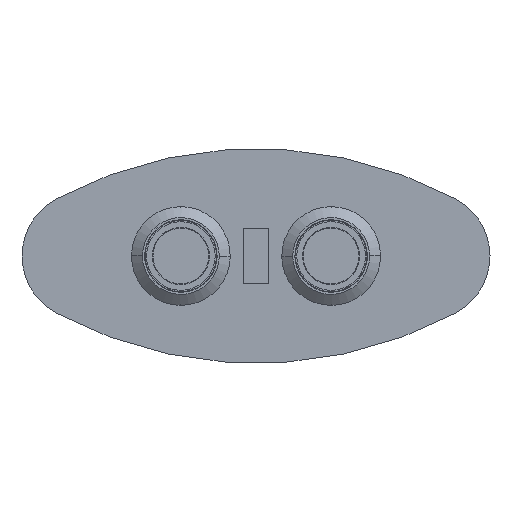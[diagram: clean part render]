
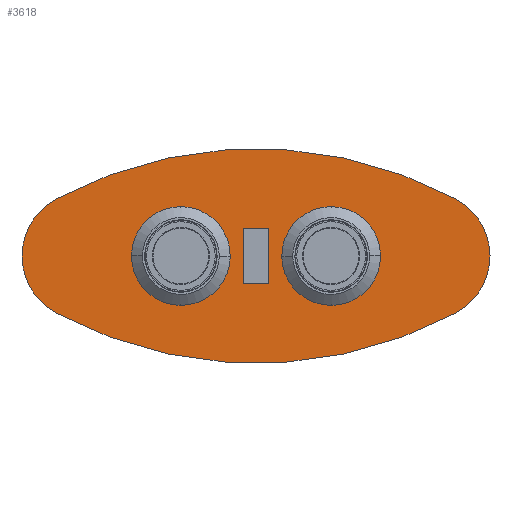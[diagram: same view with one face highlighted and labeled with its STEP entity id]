
A CAD part, front view. The second image highlights one B-rep face of the part: STEP entity #3618.
In plain terms, the highlighted planar face has unit normal (0, -1, 0).
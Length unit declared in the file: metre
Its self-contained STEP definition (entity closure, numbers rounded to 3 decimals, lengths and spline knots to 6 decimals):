
#433=DIRECTION('',(0.,0.,-1.));
#434=VECTOR('',#433,0.013);
#435=CARTESIAN_POINT('',(0.003,0.,0.0065));
#436=LINE('',#435,#434);
#437=DIRECTION('',(1.,0.,0.));
#438=VECTOR('',#437,0.006);
#439=CARTESIAN_POINT('',(-0.003,0.,0.0065));
#440=LINE('',#439,#438);
#445=DIRECTION('',(0.,0.,1.));
#446=VECTOR('',#445,0.013);
#447=CARTESIAN_POINT('',(-0.003,0.,-0.0065));
#448=LINE('',#447,#446);
#457=DIRECTION('',(-1.,0.,0.));
#458=VECTOR('',#457,0.006);
#459=CARTESIAN_POINT('',(0.003,0.,-0.0065));
#460=LINE('',#459,#458);
#465=CARTESIAN_POINT('',(0.,0.,-0.073013));
#466=DIRECTION('',(0.,1.,0.));
#467=DIRECTION('',(-0.476,0.,0.88));
#468=AXIS2_PLACEMENT_3D('',#465,#466,#467);
#470=CARTESIAN_POINT('',(0.0395,0.,0.));
#471=DIRECTION('',(0.,1.,0.));
#472=DIRECTION('',(0.476,0.,0.88));
#473=AXIS2_PLACEMENT_3D('',#470,#471,#472);
#475=CARTESIAN_POINT('',(0.0395,0.,0.));
#476=DIRECTION('',(0.,1.,0.));
#477=DIRECTION('',(1.,0.,0.));
#478=AXIS2_PLACEMENT_3D('',#475,#476,#477);
#480=CARTESIAN_POINT('',(0.,0.,0.073013));
#481=DIRECTION('',(0.,1.,0.));
#482=DIRECTION('',(0.476,0.,-0.88));
#483=AXIS2_PLACEMENT_3D('',#480,#481,#482);
#485=CARTESIAN_POINT('',(-0.0395,0.,0.));
#486=DIRECTION('',(0.,1.,0.));
#487=DIRECTION('',(-0.476,0.,-0.88));
#488=AXIS2_PLACEMENT_3D('',#485,#486,#487);
#490=CARTESIAN_POINT('',(-0.0395,0.,0.));
#491=DIRECTION('',(0.,1.,0.));
#492=DIRECTION('',(-1.,0.,0.));
#493=AXIS2_PLACEMENT_3D('',#490,#491,#492);
#495=CARTESIAN_POINT('',(0.0175,0.,0.));
#496=DIRECTION('',(0.,-1.,0.));
#497=DIRECTION('',(-1.,0.,-0.015));
#498=AXIS2_PLACEMENT_3D('',#495,#496,#497);
#500=CARTESIAN_POINT('',(0.0175,0.,0.));
#501=DIRECTION('',(0.,-1.,0.));
#502=DIRECTION('',(1.,0.,0.015));
#503=AXIS2_PLACEMENT_3D('',#500,#501,#502);
#505=CARTESIAN_POINT('',(-0.0175,0.,0.));
#506=DIRECTION('',(0.,-1.,0.));
#507=DIRECTION('',(1.,0.,-0.015));
#508=AXIS2_PLACEMENT_3D('',#505,#506,#507);
#510=CARTESIAN_POINT('',(-0.0175,0.,0.));
#511=DIRECTION('',(0.,-1.,0.));
#512=DIRECTION('',(-1.,0.,0.015));
#513=AXIS2_PLACEMENT_3D('',#510,#511,#512);
#2245=CARTESIAN_POINT('',(-0.046637,0.,0.013193));
#2246=CARTESIAN_POINT('',(0.046637,0.,0.013193));
#2247=VERTEX_POINT('',#2245);
#2248=VERTEX_POINT('',#2246);
#2249=CARTESIAN_POINT('',(0.0545,0.,0.));
#2250=VERTEX_POINT('',#2249);
#2251=CARTESIAN_POINT('',(0.046637,0.,-0.013193));
#2252=VERTEX_POINT('',#2251);
#2253=CARTESIAN_POINT('',(-0.046637,0.,-0.013193));
#2254=VERTEX_POINT('',#2253);
#2255=CARTESIAN_POINT('',(-0.0545,0.,0.));
#2256=VERTEX_POINT('',#2255);
#2257=CARTESIAN_POINT('',(0.003,0.,0.0065));
#2258=CARTESIAN_POINT('',(0.003,0.,-0.0065));
#2259=VERTEX_POINT('',#2257);
#2260=VERTEX_POINT('',#2258);
#2261=CARTESIAN_POINT('',(-0.003,0.,0.0065));
#2262=VERTEX_POINT('',#2261);
#2263=CARTESIAN_POINT('',(-0.003,0.,-0.0065));
#2264=VERTEX_POINT('',#2263);
#2265=CARTESIAN_POINT('',(0.006001,0.,-0.000172));
#2266=CARTESIAN_POINT('',(0.028999,0.,0.000172));
#2267=VERTEX_POINT('',#2265);
#2268=VERTEX_POINT('',#2266);
#2269=CARTESIAN_POINT('',(-0.006001,0.,-0.000172));
#2270=CARTESIAN_POINT('',(-0.028999,0.,0.000172));
#2271=VERTEX_POINT('',#2269);
#2272=VERTEX_POINT('',#2270);
#3581=CARTESIAN_POINT('',(0.,0.,0.));
#3582=DIRECTION('',(0.,1.,0.));
#3583=DIRECTION('',(-1.,0.,0.));
#3584=AXIS2_PLACEMENT_3D('',#3581,#3582,#3583);
#3585=PLANE('',#3584);
#3587=ORIENTED_EDGE('',*,*,#3586,.T.);
#3589=ORIENTED_EDGE('',*,*,#3588,.T.);
#3591=ORIENTED_EDGE('',*,*,#3590,.T.);
#3593=ORIENTED_EDGE('',*,*,#3592,.T.);
#3595=ORIENTED_EDGE('',*,*,#3594,.T.);
#3597=ORIENTED_EDGE('',*,*,#3596,.T.);
#3598=EDGE_LOOP('',(#3587,#3589,#3591,#3593,#3595,#3597));
#3599=FACE_OUTER_BOUND('',#3598,.F.);
#3600=ORIENTED_EDGE('',*,*,#3532,.F.);
#3601=ORIENTED_EDGE('',*,*,#3547,.F.);
#3602=ORIENTED_EDGE('',*,*,#3561,.F.);
#3603=ORIENTED_EDGE('',*,*,#3574,.F.);
#3604=EDGE_LOOP('',(#3600,#3601,#3602,#3603));
#3605=FACE_BOUND('',#3604,.F.);
#3607=ORIENTED_EDGE('',*,*,#3606,.T.);
#3609=ORIENTED_EDGE('',*,*,#3608,.T.);
#3610=EDGE_LOOP('',(#3607,#3609));
#3611=FACE_BOUND('',#3610,.F.);
#3613=ORIENTED_EDGE('',*,*,#3612,.T.);
#3615=ORIENTED_EDGE('',*,*,#3614,.T.);
#3616=EDGE_LOOP('',(#3613,#3615));
#3617=FACE_BOUND('',#3616,.F.);
#3618=ADVANCED_FACE('',(#3599,#3605,#3611,#3617),#3585,.F.);
#469=CIRCLE('',#468,0.098013);
#474=CIRCLE('',#473,0.015);
#479=CIRCLE('',#478,0.015);
#484=CIRCLE('',#483,0.098013);
#489=CIRCLE('',#488,0.015);
#494=CIRCLE('',#493,0.015);
#499=CIRCLE('',#498,0.0115);
#504=CIRCLE('',#503,0.0115);
#509=CIRCLE('',#508,0.0115);
#514=CIRCLE('',#513,0.0115);
#3532=EDGE_CURVE('',#2259,#2260,#436,.T.);
#3547=EDGE_CURVE('',#2262,#2259,#440,.T.);
#3561=EDGE_CURVE('',#2264,#2262,#448,.T.);
#3574=EDGE_CURVE('',#2260,#2264,#460,.T.);
#3586=EDGE_CURVE('',#2247,#2248,#469,.T.);
#3588=EDGE_CURVE('',#2248,#2250,#474,.T.);
#3590=EDGE_CURVE('',#2250,#2252,#479,.T.);
#3592=EDGE_CURVE('',#2252,#2254,#484,.T.);
#3594=EDGE_CURVE('',#2254,#2256,#489,.T.);
#3596=EDGE_CURVE('',#2256,#2247,#494,.T.);
#3606=EDGE_CURVE('',#2267,#2268,#499,.T.);
#3608=EDGE_CURVE('',#2268,#2267,#504,.T.);
#3612=EDGE_CURVE('',#2271,#2272,#509,.T.);
#3614=EDGE_CURVE('',#2272,#2271,#514,.T.);
